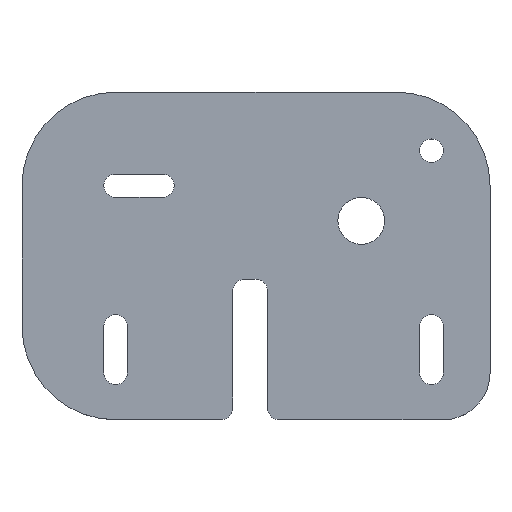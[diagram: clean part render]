
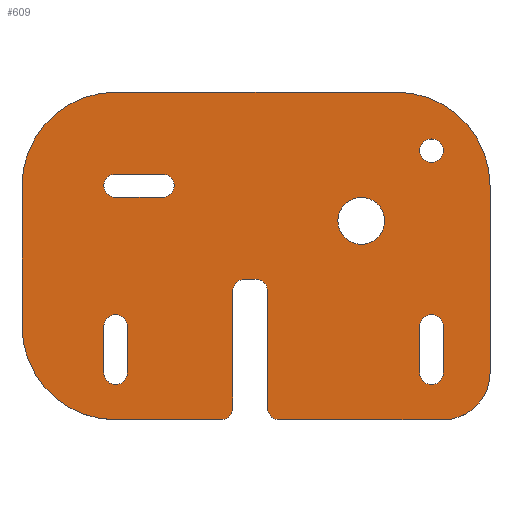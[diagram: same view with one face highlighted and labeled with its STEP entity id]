
A CAD part, top view. The second image highlights one B-rep face of the part: STEP entity #609.
In plain terms, the highlighted planar face has unit normal (0, 0, 1).
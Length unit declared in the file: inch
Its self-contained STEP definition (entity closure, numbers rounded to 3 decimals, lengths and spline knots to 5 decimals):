
#31=FACE_BOUND('',#74,.T.);
#32=FACE_BOUND('',#75,.T.);
#33=FACE_BOUND('',#76,.T.);
#34=FACE_BOUND('',#77,.T.);
#35=FACE_BOUND('',#78,.T.);
#41=FACE_OUTER_BOUND('',#73,.T.);
#73=EDGE_LOOP('',(#413,#414,#415,#416,#417,#418,#419,#420,#421,#422,#423,
#424,#425,#426,#427,#428));
#74=EDGE_LOOP('',(#429));
#75=EDGE_LOOP('',(#430));
#76=EDGE_LOOP('',(#431,#432,#433,#434));
#77=EDGE_LOOP('',(#435,#436,#437,#438));
#78=EDGE_LOOP('',(#439,#440,#441,#442));
#115=CIRCLE('',#656,0.5);
#116=CIRCLE('',#657,1.);
#117=CIRCLE('',#658,1.);
#118=CIRCLE('',#659,1.);
#119=CIRCLE('',#660,0.125);
#120=CIRCLE('',#661,0.125);
#121=CIRCLE('',#662,0.125);
#122=CIRCLE('',#663,0.125);
#123=CIRCLE('',#664,0.125);
#124=CIRCLE('',#665,0.25);
#125=CIRCLE('',#666,0.125);
#126=CIRCLE('',#667,0.125);
#127=CIRCLE('',#668,0.125);
#128=CIRCLE('',#669,0.125);
#129=CIRCLE('',#670,0.125);
#130=CIRCLE('',#671,0.125);
#147=LINE('',#911,#205);
#148=LINE('',#915,#206);
#149=LINE('',#919,#207);
#150=LINE('',#923,#208);
#151=LINE('',#927,#209);
#152=LINE('',#931,#210);
#153=LINE('',#935,#211);
#154=LINE('',#939,#212);
#155=LINE('',#949,#213);
#156=LINE('',#952,#214);
#157=LINE('',#957,#215);
#158=LINE('',#960,#216);
#159=LINE('',#965,#217);
#160=LINE('',#968,#218);
#205=VECTOR('',#723,0.3937);
#206=VECTOR('',#726,0.3937);
#207=VECTOR('',#729,0.3937);
#208=VECTOR('',#732,0.3937);
#209=VECTOR('',#735,0.3937);
#210=VECTOR('',#738,0.3937);
#211=VECTOR('',#741,0.3937);
#212=VECTOR('',#744,0.3937);
#213=VECTOR('',#753,0.3937);
#214=VECTOR('',#756,0.3937);
#215=VECTOR('',#759,0.3937);
#216=VECTOR('',#762,0.3937);
#217=VECTOR('',#765,0.3937);
#218=VECTOR('',#768,0.3937);
#263=VERTEX_POINT('',#909);
#264=VERTEX_POINT('',#910);
#265=VERTEX_POINT('',#912);
#266=VERTEX_POINT('',#914);
#267=VERTEX_POINT('',#916);
#268=VERTEX_POINT('',#918);
#269=VERTEX_POINT('',#920);
#270=VERTEX_POINT('',#922);
#271=VERTEX_POINT('',#924);
#272=VERTEX_POINT('',#926);
#273=VERTEX_POINT('',#928);
#274=VERTEX_POINT('',#930);
#275=VERTEX_POINT('',#932);
#276=VERTEX_POINT('',#934);
#277=VERTEX_POINT('',#936);
#278=VERTEX_POINT('',#938);
#279=VERTEX_POINT('',#941);
#280=VERTEX_POINT('',#943);
#281=VERTEX_POINT('',#945);
#282=VERTEX_POINT('',#946);
#283=VERTEX_POINT('',#948);
#284=VERTEX_POINT('',#950);
#285=VERTEX_POINT('',#953);
#286=VERTEX_POINT('',#954);
#287=VERTEX_POINT('',#956);
#288=VERTEX_POINT('',#958);
#289=VERTEX_POINT('',#961);
#290=VERTEX_POINT('',#962);
#291=VERTEX_POINT('',#964);
#292=VERTEX_POINT('',#966);
#323=EDGE_CURVE('',#263,#264,#147,.T.);
#324=EDGE_CURVE('',#265,#263,#115,.T.);
#325=EDGE_CURVE('',#266,#265,#148,.T.);
#326=EDGE_CURVE('',#267,#266,#116,.T.);
#327=EDGE_CURVE('',#268,#267,#149,.T.);
#328=EDGE_CURVE('',#269,#268,#117,.T.);
#329=EDGE_CURVE('',#270,#269,#150,.T.);
#330=EDGE_CURVE('',#271,#270,#118,.T.);
#331=EDGE_CURVE('',#272,#271,#151,.T.);
#332=EDGE_CURVE('',#273,#272,#119,.T.);
#333=EDGE_CURVE('',#274,#273,#152,.T.);
#334=EDGE_CURVE('',#275,#274,#120,.T.);
#335=EDGE_CURVE('',#276,#275,#153,.T.);
#336=EDGE_CURVE('',#277,#276,#121,.T.);
#337=EDGE_CURVE('',#278,#277,#154,.T.);
#338=EDGE_CURVE('',#264,#278,#122,.T.);
#339=EDGE_CURVE('',#279,#279,#123,.T.);
#340=EDGE_CURVE('',#280,#280,#124,.T.);
#341=EDGE_CURVE('',#281,#282,#125,.T.);
#342=EDGE_CURVE('',#283,#281,#155,.T.);
#343=EDGE_CURVE('',#284,#283,#126,.T.);
#344=EDGE_CURVE('',#282,#284,#156,.T.);
#345=EDGE_CURVE('',#285,#286,#127,.T.);
#346=EDGE_CURVE('',#287,#285,#157,.T.);
#347=EDGE_CURVE('',#288,#287,#128,.T.);
#348=EDGE_CURVE('',#286,#288,#158,.T.);
#349=EDGE_CURVE('',#289,#290,#129,.T.);
#350=EDGE_CURVE('',#291,#289,#159,.T.);
#351=EDGE_CURVE('',#292,#291,#130,.T.);
#352=EDGE_CURVE('',#290,#292,#160,.T.);
#413=ORIENTED_EDGE('',*,*,#323,.F.);
#414=ORIENTED_EDGE('',*,*,#324,.F.);
#415=ORIENTED_EDGE('',*,*,#325,.F.);
#416=ORIENTED_EDGE('',*,*,#326,.F.);
#417=ORIENTED_EDGE('',*,*,#327,.F.);
#418=ORIENTED_EDGE('',*,*,#328,.F.);
#419=ORIENTED_EDGE('',*,*,#329,.F.);
#420=ORIENTED_EDGE('',*,*,#330,.F.);
#421=ORIENTED_EDGE('',*,*,#331,.F.);
#422=ORIENTED_EDGE('',*,*,#332,.F.);
#423=ORIENTED_EDGE('',*,*,#333,.F.);
#424=ORIENTED_EDGE('',*,*,#334,.F.);
#425=ORIENTED_EDGE('',*,*,#335,.F.);
#426=ORIENTED_EDGE('',*,*,#336,.F.);
#427=ORIENTED_EDGE('',*,*,#337,.F.);
#428=ORIENTED_EDGE('',*,*,#338,.F.);
#429=ORIENTED_EDGE('',*,*,#339,.F.);
#430=ORIENTED_EDGE('',*,*,#340,.F.);
#431=ORIENTED_EDGE('',*,*,#341,.F.);
#432=ORIENTED_EDGE('',*,*,#342,.F.);
#433=ORIENTED_EDGE('',*,*,#343,.F.);
#434=ORIENTED_EDGE('',*,*,#344,.F.);
#435=ORIENTED_EDGE('',*,*,#345,.F.);
#436=ORIENTED_EDGE('',*,*,#346,.F.);
#437=ORIENTED_EDGE('',*,*,#347,.F.);
#438=ORIENTED_EDGE('',*,*,#348,.F.);
#439=ORIENTED_EDGE('',*,*,#349,.F.);
#440=ORIENTED_EDGE('',*,*,#350,.F.);
#441=ORIENTED_EDGE('',*,*,#351,.F.);
#442=ORIENTED_EDGE('',*,*,#352,.F.);
#593=PLANE('',#655);
#609=ADVANCED_FACE('',(#41,#31,#32,#33,#34,#35),#593,.T.);
#655=AXIS2_PLACEMENT_3D('',#908,#721,#722);
#656=AXIS2_PLACEMENT_3D('',#913,#724,#725);
#657=AXIS2_PLACEMENT_3D('',#917,#727,#728);
#658=AXIS2_PLACEMENT_3D('',#921,#730,#731);
#659=AXIS2_PLACEMENT_3D('',#925,#733,#734);
#660=AXIS2_PLACEMENT_3D('',#929,#736,#737);
#661=AXIS2_PLACEMENT_3D('',#933,#739,#740);
#662=AXIS2_PLACEMENT_3D('',#937,#742,#743);
#663=AXIS2_PLACEMENT_3D('',#940,#745,#746);
#664=AXIS2_PLACEMENT_3D('',#942,#747,#748);
#665=AXIS2_PLACEMENT_3D('',#944,#749,#750);
#666=AXIS2_PLACEMENT_3D('',#947,#751,#752);
#667=AXIS2_PLACEMENT_3D('',#951,#754,#755);
#668=AXIS2_PLACEMENT_3D('',#955,#757,#758);
#669=AXIS2_PLACEMENT_3D('',#959,#760,#761);
#670=AXIS2_PLACEMENT_3D('',#963,#763,#764);
#671=AXIS2_PLACEMENT_3D('',#967,#766,#767);
#721=DIRECTION('center_axis',(0.,0.,1.));
#722=DIRECTION('ref_axis',(1.,0.,0.));
#723=DIRECTION('',(-1.,0.,0.));
#724=DIRECTION('center_axis',(0.,0.,-1.));
#725=DIRECTION('ref_axis',(1.,0.,0.));
#726=DIRECTION('',(0.,-1.,0.));
#727=DIRECTION('center_axis',(0.,0.,-1.));
#728=DIRECTION('ref_axis',(1.,0.,0.));
#729=DIRECTION('',(1.,0.,0.));
#730=DIRECTION('center_axis',(0.,0.,-1.));
#731=DIRECTION('ref_axis',(1.,0.,0.));
#732=DIRECTION('',(0.,1.,0.));
#733=DIRECTION('center_axis',(0.,0.,-1.));
#734=DIRECTION('ref_axis',(1.,0.,0.));
#735=DIRECTION('',(-1.,0.,0.));
#736=DIRECTION('center_axis',(0.,0.,-1.));
#737=DIRECTION('ref_axis',(-1.,0.,0.));
#738=DIRECTION('',(0.,-1.,0.));
#739=DIRECTION('center_axis',(0.,0.,1.));
#740=DIRECTION('ref_axis',(-1.,0.,0.));
#741=DIRECTION('',(-1.,0.,0.));
#742=DIRECTION('center_axis',(0.,0.,1.));
#743=DIRECTION('ref_axis',(-1.,0.,0.));
#744=DIRECTION('',(0.,1.,0.));
#745=DIRECTION('center_axis',(0.,0.,-1.));
#746=DIRECTION('ref_axis',(-1.,0.,0.));
#747=DIRECTION('center_axis',(0.,0.,1.));
#748=DIRECTION('ref_axis',(1.,0.,0.));
#749=DIRECTION('center_axis',(0.,0.,1.));
#750=DIRECTION('ref_axis',(1.,0.,0.));
#751=DIRECTION('center_axis',(0.,0.,1.));
#752=DIRECTION('ref_axis',(1.,0.,0.));
#753=DIRECTION('',(-1.,0.,0.));
#754=DIRECTION('center_axis',(0.,0.,1.));
#755=DIRECTION('ref_axis',(1.,0.,0.));
#756=DIRECTION('',(1.,0.,0.));
#757=DIRECTION('center_axis',(0.,0.,1.));
#758=DIRECTION('ref_axis',(1.,0.,0.));
#759=DIRECTION('',(0.,1.,0.));
#760=DIRECTION('center_axis',(0.,0.,1.));
#761=DIRECTION('ref_axis',(1.,0.,0.));
#762=DIRECTION('',(0.,-1.,0.));
#763=DIRECTION('center_axis',(0.,0.,1.));
#764=DIRECTION('ref_axis',(1.,0.,0.));
#765=DIRECTION('',(0.,1.,0.));
#766=DIRECTION('center_axis',(0.,0.,1.));
#767=DIRECTION('ref_axis',(1.,0.,0.));
#768=DIRECTION('',(0.,-1.,0.));
#908=CARTESIAN_POINT('Origin',(0.,0.,-0.035));
#909=CARTESIAN_POINT('',(2.,-1.75,-0.035));
#910=CARTESIAN_POINT('',(0.25,-1.75,-0.035));
#911=CARTESIAN_POINT('',(-1.25,-1.75,-0.035));
#912=CARTESIAN_POINT('',(2.5,-1.25,-0.035));
#913=CARTESIAN_POINT('Origin',(2.,-1.25,-0.035));
#914=CARTESIAN_POINT('',(2.5,0.75,-0.035));
#915=CARTESIAN_POINT('',(2.5,0.875,-0.035));
#916=CARTESIAN_POINT('',(1.5,1.75,-0.035));
#917=CARTESIAN_POINT('Origin',(1.5,0.75,-0.035));
#918=CARTESIAN_POINT('',(-1.5,1.75,-0.035));
#919=CARTESIAN_POINT('',(-1.25,1.75,-0.035));
#920=CARTESIAN_POINT('',(-2.5,0.75,-0.035));
#921=CARTESIAN_POINT('Origin',(-1.5,0.75,-0.035));
#922=CARTESIAN_POINT('',(-2.5,-0.75,-0.035));
#923=CARTESIAN_POINT('',(-2.5,0.875,-0.035));
#924=CARTESIAN_POINT('',(-1.5,-1.75,-0.035));
#925=CARTESIAN_POINT('Origin',(-1.5,-0.75,-0.035));
#926=CARTESIAN_POINT('',(-0.375,-1.75,-0.035));
#927=CARTESIAN_POINT('',(-1.25,-1.75,-0.035));
#928=CARTESIAN_POINT('',(-0.25,-1.625,-0.035));
#929=CARTESIAN_POINT('Origin',(-0.375,-1.625,-0.035));
#930=CARTESIAN_POINT('',(-0.25,-0.375,-0.035));
#931=CARTESIAN_POINT('',(-0.25,-0.875,-0.035));
#932=CARTESIAN_POINT('',(-0.125,-0.25,-0.035));
#933=CARTESIAN_POINT('Origin',(-0.125,-0.375,-0.035));
#934=CARTESIAN_POINT('',(0.,-0.25,-0.035));
#935=CARTESIAN_POINT('',(-0.125,-0.25,-0.035));
#936=CARTESIAN_POINT('',(0.125,-0.375,-0.035));
#937=CARTESIAN_POINT('Origin',(0.,-0.375,-0.035));
#938=CARTESIAN_POINT('',(0.125,-1.625,-0.035));
#939=CARTESIAN_POINT('',(0.125,-0.875,-0.035));
#940=CARTESIAN_POINT('Origin',(0.25,-1.625,-0.035));
#941=CARTESIAN_POINT('',(1.75,1.125,-0.035));
#942=CARTESIAN_POINT('Origin',(1.875,1.125,-0.035));
#943=CARTESIAN_POINT('',(0.875,0.375,-0.035));
#944=CARTESIAN_POINT('Origin',(1.125,0.375,-0.035));
#945=CARTESIAN_POINT('',(-1.5,0.875,-0.035));
#946=CARTESIAN_POINT('',(-1.5,0.625,-0.035));
#947=CARTESIAN_POINT('Origin',(-1.5,0.75,-0.035));
#948=CARTESIAN_POINT('',(-1.,0.875,-0.035));
#949=CARTESIAN_POINT('',(-0.75,0.875,-0.035));
#950=CARTESIAN_POINT('',(-1.,0.625,-0.035));
#951=CARTESIAN_POINT('Origin',(-1.,0.75,-0.035));
#952=CARTESIAN_POINT('',(-0.75,0.625,-0.035));
#953=CARTESIAN_POINT('',(-1.375,-0.75,-0.035));
#954=CARTESIAN_POINT('',(-1.625,-0.75,-0.035));
#955=CARTESIAN_POINT('Origin',(-1.5,-0.75,-0.035));
#956=CARTESIAN_POINT('',(-1.375,-1.25,-0.035));
#957=CARTESIAN_POINT('',(-1.375,-0.375,-0.035));
#958=CARTESIAN_POINT('',(-1.625,-1.25,-0.035));
#959=CARTESIAN_POINT('Origin',(-1.5,-1.25,-0.035));
#960=CARTESIAN_POINT('',(-1.625,-0.375,-0.035));
#961=CARTESIAN_POINT('',(2.,-0.75,-0.035));
#962=CARTESIAN_POINT('',(1.75,-0.75,-0.035));
#963=CARTESIAN_POINT('Origin',(1.875,-0.75,-0.035));
#964=CARTESIAN_POINT('',(2.,-1.25,-0.035));
#965=CARTESIAN_POINT('',(2.,-0.375,-0.035));
#966=CARTESIAN_POINT('',(1.75,-1.25,-0.035));
#967=CARTESIAN_POINT('Origin',(1.875,-1.25,-0.035));
#968=CARTESIAN_POINT('',(1.75,-0.375,-0.035));
